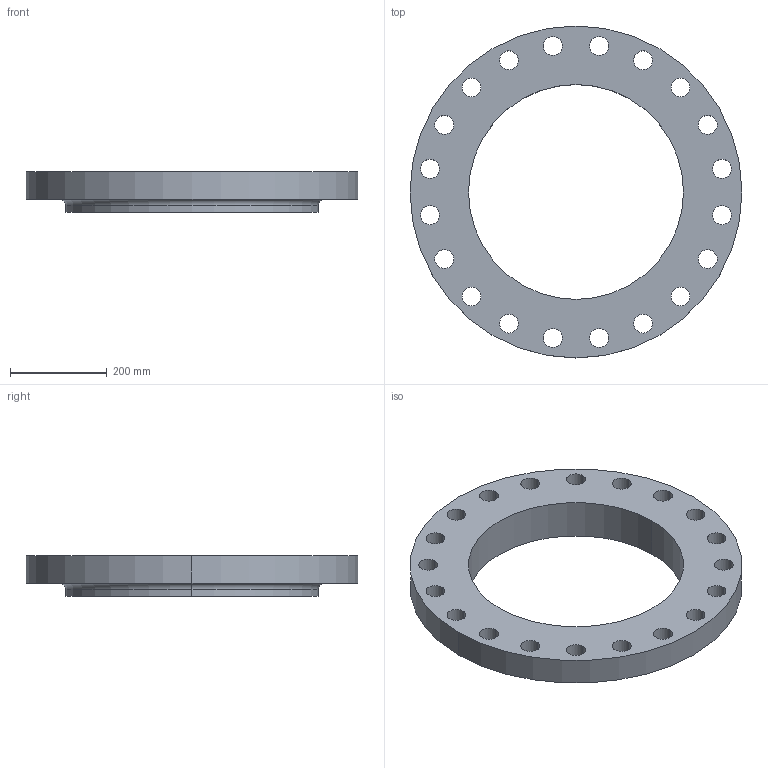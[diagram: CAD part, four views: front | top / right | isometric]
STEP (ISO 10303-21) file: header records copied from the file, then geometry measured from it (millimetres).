
FILE_DESCRIPTION (( 'STEP AP214' ), '1' );
FILE_NAME ('PN40 DN450 Type 13 - Type A Face.STEP', '2018-12-29T02:32:15', ( '' ), ( '' ), 'SwSTEP 2.0', 'SolidWorks 2019', '' );
FILE_SCHEMA (( 'AUTOMOTIVE_DESIGN' ));
Length unit declared in the file: millimetre
Products named in the file (1): PN40 DN450 Type 13 - Type A Face
Bounding box: 685 x 685 x 84 mm (x, y, z)
Volume: 12496956.2 mm3; surface area: 795575.1 mm2
Topology: 1 solids, 1 shells, 51 faces, 142 edges, 94 vertices
Faces by surface type: cylinder 46, plane 3, torus 2
Entity records: 1814 total; most frequent: DIRECTION 342, CARTESIAN_POINT 288, ORIENTED_EDGE 284, AXIS2_PLACEMENT_3D 148, EDGE_CURVE 142, CIRCLE 96, VERTEX_POINT 94, EDGE_LOOP 94
